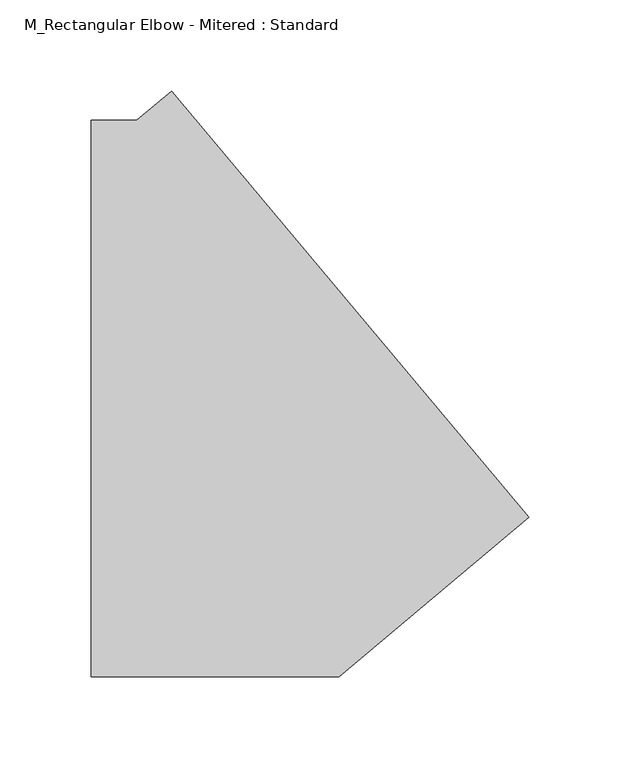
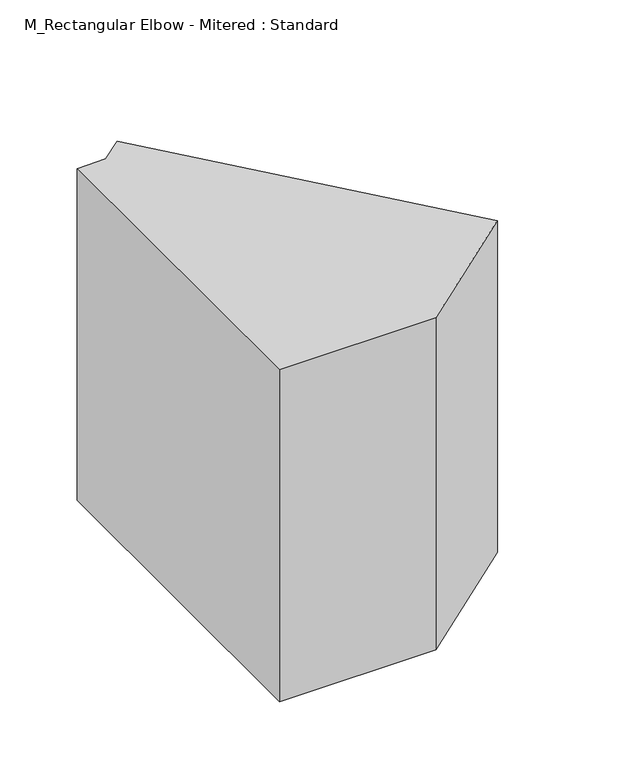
"""IFC4 building model written with IfcOpenShell, lengths in millimetres: duct fitting geometry, M_Rectangular Elbow - Mitered : Standard."""

from ifc_helpers import new_model, si_unit, frame, origin, place, context, project, spatial, polyline, outline, extrude, source, transform, mapped, element, save


def m_rectangular_elbow_mitered_standard_5edf3fd6(model_context):
    return source(origin(), model_context, "Body", "SweptSolid", [
        extrude(outline(polyline([(-80.5054607, -152.5), (-80.5054607, 152.5), (-55.5054607, 152.5), (-36.3543496, 168.5696902), (159.6958713, -65.0738649), (55.5054607, -152.5), (-80.5054607, -152.5)])), frame((0.0, 0.0, -152.5), z_axis=(0.0, 0.0, 1.0), x_axis=(1.0, 0.0, 0.0)), (0.0, 0.0, 1.0), 305.0),
    ])


if __name__ == "__main__":
    model = new_model("IFC4")
    model_context = context("Model", 3, world=origin())
    ifc_project = project(units=[si_unit("LENGTHUNIT", "METRE", prefix="MILLI")], contexts=[model_context])
    site = spatial("IfcSite", under=ifc_project)
    building = spatial("IfcBuilding", under=site)
    placement = place(None, origin())
    m_rectangular_elbow_mitered_standard_shape = m_rectangular_elbow_mitered_standard_5edf3fd6(model_context)
    element("IfcDuctFitting", 1, ObjectType="M_Rectangular Elbow - Mitered : Standard", at=placement, inside=building, context=model_context, shape_type="MappedRepresentation", body=[
        mapped(m_rectangular_elbow_mitered_standard_shape, transform((0.0, 0.0, 0.0), x_axis=(1.0, 0.0, 0.0), y_axis=(0.0, 1.0, 0.0), z_axis=(0.0, 0.0, 1.0))),
    ])
    save(model, "model.ifc")
